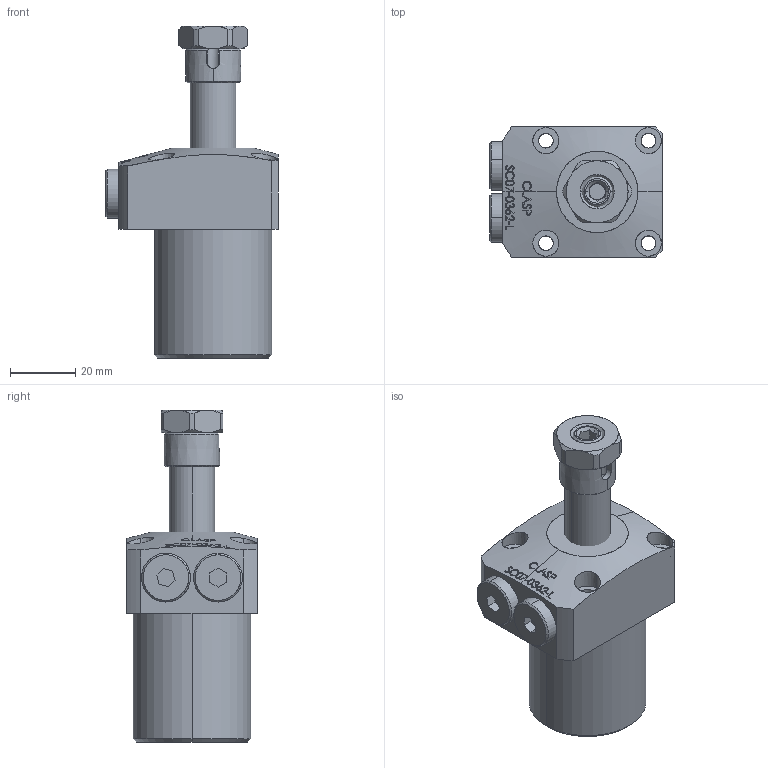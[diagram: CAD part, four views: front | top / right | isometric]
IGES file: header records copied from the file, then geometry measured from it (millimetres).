
Start section: SolidWorks IGES file using analytic representation for surfaces
Global section: file name: D:\karuppas\Clasp\3D model\SWING CYLINDER\Top Mounting swing cylinder\SC07-0362-L\SC07-0362-L.IGS; native system: SolidWorks 2017; preprocessor: SolidWorks 2017; author: pc; date: 220705.231751; units: millimetre
Bounding box: 53 x 40 x 102 mm (x, y, z)
Surface area: 21796.9 mm2 (no closed solid volume)
Topology: 0 solids, 0 shells, 363 faces, 6167 edges, 6166 vertices
Faces by surface type: bspline 251, revolution 112
